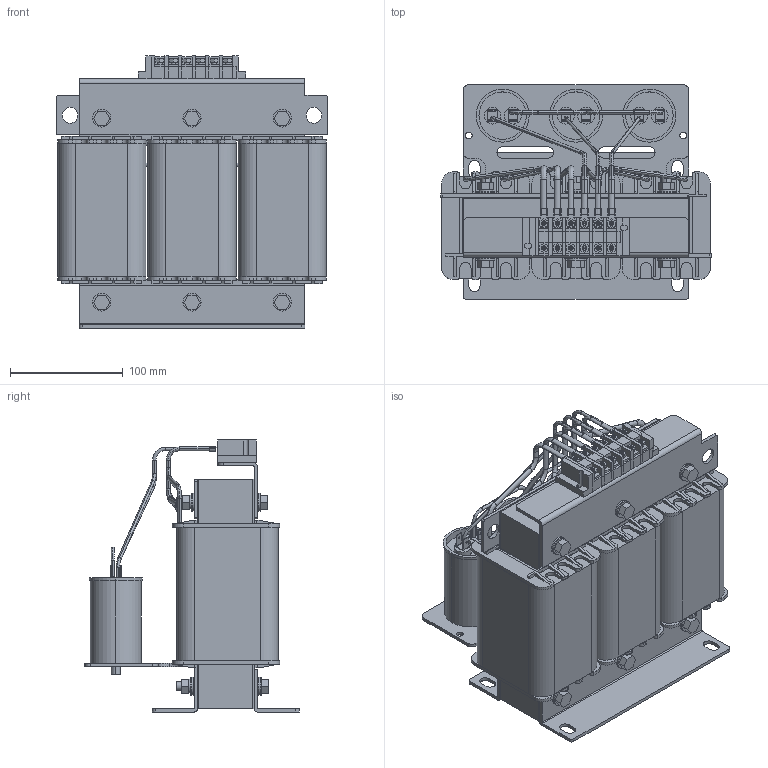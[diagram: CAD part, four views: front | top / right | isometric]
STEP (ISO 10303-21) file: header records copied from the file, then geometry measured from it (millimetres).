
FILE_DESCRIPTION (( 'STEP AP203' ), '1' );
FILE_NAME ('蔓躅漤铋 耔眢耥 翳朦蝠 _ ISINOF-7.5_18-4.STEP', '2026-07-16T10:13:03', ( '' ), ( '' ), 'SwSTEP 2.0', 'SolidWorks 2021', '' );
FILE_SCHEMA (( 'CONFIG_CONTROL_DESIGN' ));
Length unit declared in the file: millimetre
Products named in the file (166): 7.5KW滤波电抗器380V50Hz_81; 7.5KW滤波电抗器380V50Hz_59; 7.5KW滤波电抗器380V50Hz_117; 7.5KW滤波电抗器380V50Hz_55; 7.5KW滤波电抗器380V50Hz_106; 7.5KW滤波电抗器380V50Hz_56; 7.5KW滤波电抗器380V50Hz_141; 7.5KW滤波电抗器380V50Hz_113; 7.5KW滤波电抗器380V50Hz_143; 7.5KW滤波电抗器380V50Hz; 7.5KW滤波电抗器380V50Hz_30; 7.5KW滤波电抗器380V50Hz_153; 7.5KW滤波电抗器380V50Hz_1; 7.5KW滤波电抗器380V50Hz_77; 7.5KW滤波电抗器380V50Hz_57; 7.5KW滤波电抗器380V50Hz_78; 7.5KW滤波电抗器380V50Hz_68; 7.5KW滤波电抗器380V50Hz_127; 7.5KW滤波电抗器380V50Hz_95; 7.5KW滤波电抗器380V50Hz_23; 7.5KW滤波电抗器380V50Hz_103; 7.5KW滤波电抗器380V50Hz_94; 7.5KW滤波电抗器380V50Hz_154; 7.5KW滤波电抗器380V50Hz_63; 7.5KW滤波电抗器380V50Hz_6; 7.5KW滤波电抗器380V50Hz_96; 7.5KW滤波电抗器380V50Hz_18; 7.5KW滤波电抗器380V50Hz_89; 7.5KW滤波电抗器380V50Hz_69; 7.5KW滤波电抗器380V50Hz_24; 7.5KW滤波电抗器380V50Hz_79; 7.5KW滤波电抗器380V50Hz_132; 7.5KW滤波电抗器380V50Hz_48; 7.5KW滤波电抗器380V50Hz_33; 7.5KW滤波电抗器380V50Hz_37; 7.5KW滤波电抗器380V50Hz_116; 7.5KW滤波电抗器380V50Hz_16; 7.5KW滤波电抗器380V50Hz_140; 蔓躅漤铋 耔眢耥 翳朦蝠 _ ISINOF-7.5_18-4; 7.5KW滤波电抗器380V50Hz_9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
Assembly tree (165 placements, depth 2):
  蔓躅漤铋 耔眢耥 翳朦蝠 _ ISINOF-7.5_18-4
    7.5KW滤波电抗器380V50Hz_138
    7.5KW滤波电抗器380V50Hz_136
    7.5KW滤波电抗器380V50Hz_7
    7.5KW滤波电抗器380V50Hz_39
    7.5KW滤波电抗器380V50Hz_22
    7.5KW滤波电抗器380V50Hz_6
    7.5KW滤波电抗器380V50Hz_58
    7.5KW滤波电抗器380V50Hz_27
    7.5KW滤波电抗器380V50Hz_60
    7.5KW滤波电抗器380V50Hz_66
    7.5KW滤波电抗器380V50Hz_89
    7.5KW滤波电抗器380V50Hz_152
    7.5KW滤波电抗器380V50Hz_36
    7.5KW滤波电抗器380V50Hz_149
    7.5KW滤波电抗器380V50Hz_21
    7.5KW滤波电抗器380V50Hz_4
    7.5KW滤波电抗器380V50Hz_90
    7.5KW滤波电抗器380V50Hz_114
    7.5KW滤波电抗器380V50Hz_13
    7.5KW滤波电抗器380V50Hz_113
    7.5KW滤波电抗器380V50Hz_33
    7.5KW滤波电抗器380V50Hz_68
    7.5KW滤波电抗器380V50Hz_75
    7.5KW滤波电抗器380V50Hz_158
    7.5KW滤波电抗器380V50Hz_16
    7.5KW滤波电抗器380V50Hz_31
    7.5KW滤波电抗器380V50Hz_147
    7.5KW滤波电抗器380V50Hz_146
    7.5KW滤波电抗器380V50Hz_126
    7.5KW滤波电抗器380V50Hz_120
    7.5KW滤波电抗器380V50Hz_156
    7.5KW滤波电抗器380V50Hz_73
    7.5KW滤波电抗器380V50Hz_116
    7.5KW滤波电抗器380V50Hz_42
    7.5KW滤波电抗器380V50Hz_97
    7.5KW滤波电抗器380V50Hz_79
    7.5KW滤波电抗器380V50Hz_49
    7.5KW滤波电抗器380V50Hz_28
    7.5KW滤波电抗器380V50Hz_32
    7.5KW滤波电抗器380V50Hz_119
    7.5KW滤波电抗器380V50Hz_24
    7.5KW滤波电抗器380V50Hz_106
    7.5KW滤波电抗器380V50Hz_163
    7.5KW滤波电抗器380V50Hz_128
    7.5KW滤波电抗器380V50Hz_19
    7.5KW滤波电抗器380V50Hz_40
    7.5KW滤波电抗器380V50Hz_123
    7.5KW滤波电抗器380V50Hz
    7.5KW滤波电抗器380V50Hz_64
    7.5KW滤波电抗器380V50Hz_101
    7.5KW滤波电抗器380V50Hz_145
    7.5KW滤波电抗器380V50Hz_125
    7.5KW滤波电抗器380V50Hz_87
    7.5KW滤波电抗器380V50Hz_20
    7.5KW滤波电抗器380V50Hz_9
    7.5KW滤波电抗器380V50Hz_2
    7.5KW滤波电抗器380V50Hz_17
    7.5KW滤波电抗器380V50Hz_11
    7.5KW滤波电抗器380V50Hz_76
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Bounding box: 240 x 190 x 241 mm (x, y, z)
Volume: 3936414.5 mm3; surface area: 928132.8 mm2
Topology: 165 solids, 165 shells, 2289 faces, 5672 edges, 3738 vertices
Faces by surface type: plane 1487, cylinder 668, bspline 84, torus 26, cone 24
Entity records: 89650 total; most frequent: CARTESIAN_POINT 17075, ORIENTED_EDGE 11344, DIRECTION 11142, EDGE_CURVE 5672, VECTOR 4012, LINE 4012, VERTEX_POINT 3738, AXIS2_PLACEMENT_3D 3565
